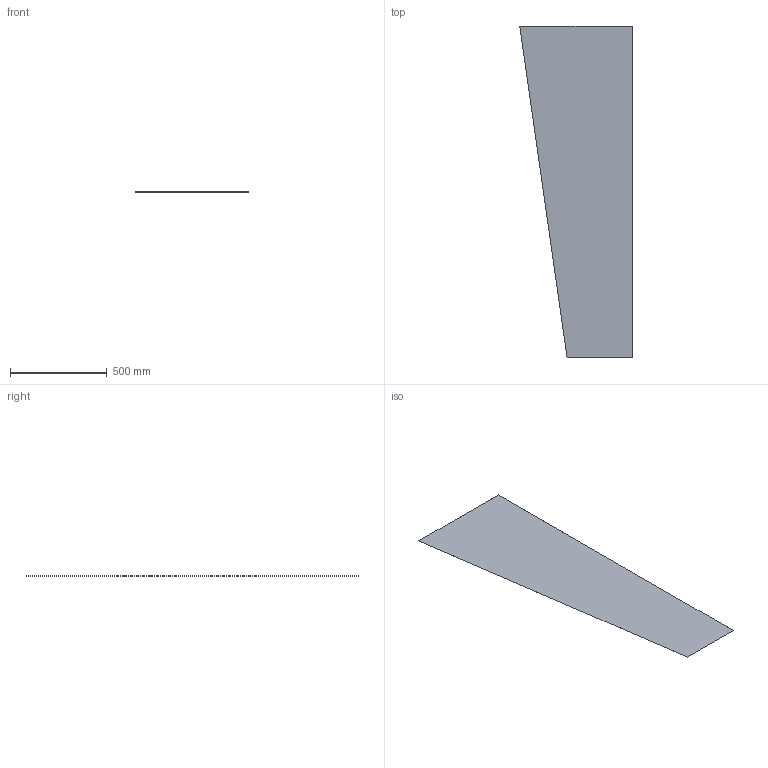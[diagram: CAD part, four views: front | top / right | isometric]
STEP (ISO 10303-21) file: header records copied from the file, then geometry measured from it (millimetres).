
FILE_DESCRIPTION(/* description */ ('PCB Design'),/* implementation_level */ '2;1');
FILE_NAME(/* name */ 'layout_ver2_15_juin_2017',/* time_stamp */ '2017-07-17T09:52:10+02:00',/* author */ ('delaunay'),/* organization */ (''),/* preprocessor_version */ 'ST-DEVELOPER v16',/* originating_system */ 'allegro_17.2S004',/* authorisation */ '');
FILE_SCHEMA (('AUTOMOTIVE_DESIGN { 1 0 10303 214 3 1 1 }'));
Length unit declared in the file: millimetre
Products named in the file (2): LAYOUT_VER2_15_JUIN_2017; BOARD_OUTLINE
Assembly tree (1 placements, depth 2):
  LAYOUT_VER2_15_JUIN_2017
    BOARD_OUTLINE
Bounding box: 580.04 x 1713.42 x 0.09 mm (x, y, z)
Surface area: 1570288.6 mm2 (no closed solid volume)
Topology: 0 solids, 1 shells, 6 faces, 13 edges, 8 vertices
Faces by surface type: plane 6
Entity records: 189 total; most frequent: ORIENTED_EDGE 24, DIRECTION 20, EDGE_CURVE 13, VECTOR 13, LINE 13, CARTESIAN_POINT 11, VERTEX_POINT 10, AXIS2_PLACEMENT_3D 8
